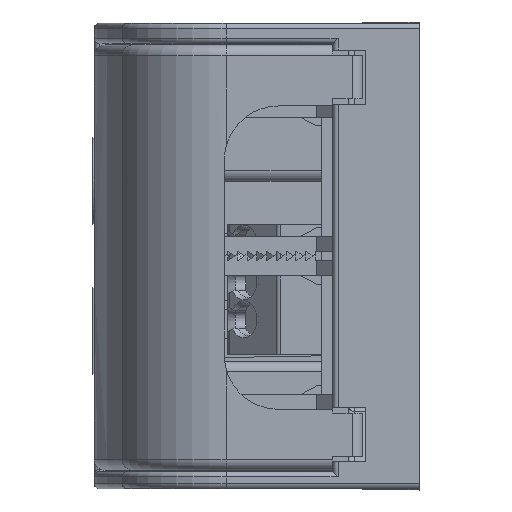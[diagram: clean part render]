
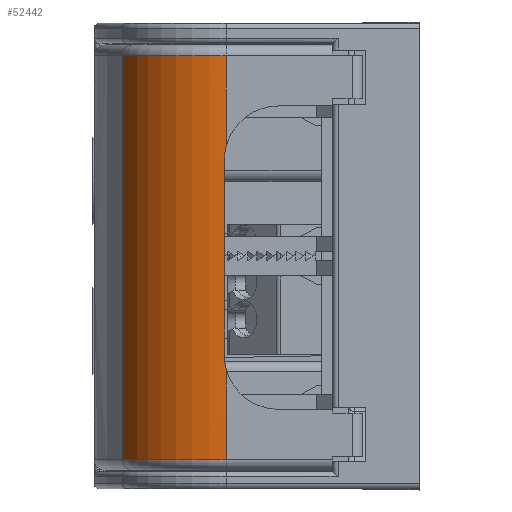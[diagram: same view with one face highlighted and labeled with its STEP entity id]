
A CAD part, left-side view. The second image highlights one B-rep face of the part: STEP entity #52442.
In plain terms, the highlighted cylindrical face has radius 10 mm (diameter 20 mm), a partial arc.
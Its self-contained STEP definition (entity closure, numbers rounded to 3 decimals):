
#48990=CARTESIAN_POINT('',(85.5,17.836,-18.48));
#49692=CARTESIAN_POINT('',(75.5,17.836,18.78));
#49693=DIRECTION('',(0.,0.,-1.));
#49694=DIRECTION('',(0.283,0.959,0.));
#49695=AXIS2_PLACEMENT_3D('',#49692,#49693,#49694);
#49707=DIRECTION('',(0.,0.,-1.));
#49708=VECTOR('',#49707,37.26);
#49709=CARTESIAN_POINT('',(78.327,27.428,18.78));
#49710=LINE('',#49709,#49708);
#49711=DIRECTION('',(0.,0.,1.));
#49712=VECTOR('',#49711,8.359);
#49713=CARTESIAN_POINT('',(85.5,17.836,-18.48));
#49714=LINE('',#49713,#49712);
#49715=CARTESIAN_POINT('',(85.5,17.836,-10.121));
#49716=CARTESIAN_POINT('',(85.5,17.872,
-9.983));
#49717=CARTESIAN_POINT('',(85.5,17.933,
-9.704));
#49718=CARTESIAN_POINT('',(85.499,17.988,
-9.278));
#49719=CARTESIAN_POINT('',(85.499,18.,
-8.993));
#49720=CARTESIAN_POINT('',(85.499,18.,
-8.85));
#49722=DIRECTION('',(0.,0.,1.));
#49723=VECTOR('',#49722,18.);
#49724=CARTESIAN_POINT('',(85.499,18.,
-8.85));
#49725=LINE('',#49724,#49723);
#49726=CARTESIAN_POINT('',(85.499,18.,9.15));
#49727=CARTESIAN_POINT('',(85.499,18.,9.293));
#49728=CARTESIAN_POINT('',(85.499,17.988,9.578));
#49729=CARTESIAN_POINT('',(85.5,17.933,10.004));
#49730=CARTESIAN_POINT('',(85.5,17.872,10.283));
#49731=CARTESIAN_POINT('',(85.5,17.836,10.421));
#49733=DIRECTION('',(0.,0.,1.));
#49734=VECTOR('',#49733,8.359);
#49735=CARTESIAN_POINT('',(85.5,17.836,10.421));
#49736=LINE('',#49735,#49734);
#49742=CARTESIAN_POINT('',(75.5,17.836,-18.48));
#49743=DIRECTION('',(0.,0.,1.));
#49744=DIRECTION('',(1.,0.,0.));
#49745=AXIS2_PLACEMENT_3D('',#49742,#49743,#49744);
#50073=CARTESIAN_POINT('',(78.327,27.428,18.78));
#50074=VERTEX_POINT('',#50073);
#50076=CARTESIAN_POINT('',(78.327,27.428,-18.48));
#50077=VERTEX_POINT('',#50076);
#50246=VERTEX_POINT('',#48990);
#50282=CARTESIAN_POINT('',(85.499,18.,9.15));
#50283=VERTEX_POINT('',#50282);
#50284=CARTESIAN_POINT('',(85.499,18.,
-8.85));
#50285=VERTEX_POINT('',#50284);
#50290=CARTESIAN_POINT('',(85.5,17.836,10.421));
#50291=VERTEX_POINT('',#50290);
#50440=CARTESIAN_POINT('',(85.5,17.836,18.78));
#50441=VERTEX_POINT('',#50440);
#50442=CARTESIAN_POINT('',(85.5,17.836,-10.121));
#50443=VERTEX_POINT('',#50442);
#52423=CARTESIAN_POINT('',(75.5,17.836,72.802));
#52424=DIRECTION('',(0.,0.,-1.));
#52425=DIRECTION('',(0.283,0.959,0.));
#52426=AXIS2_PLACEMENT_3D('',#52423,#52424,#52425);
#52427=CYLINDRICAL_SURFACE('',#52426,10.);
#52428=ORIENTED_EDGE('',*,*,#52415,.F.);
#52429=ORIENTED_EDGE('',*,*,#50716,.T.);
#52431=ORIENTED_EDGE('',*,*,#52430,.F.);
#52433=ORIENTED_EDGE('',*,*,#52432,.T.);
#52435=ORIENTED_EDGE('',*,*,#52434,.T.);
#52436=ORIENTED_EDGE('',*,*,#51607,.T.);
#52437=ORIENTED_EDGE('',*,*,#51624,.T.);
#52439=ORIENTED_EDGE('',*,*,#52438,.T.);
#52440=EDGE_LOOP('',(#52428,#52429,#52431,#52433,#52435,#52436,#52437,#52439));
#52441=FACE_OUTER_BOUND('',#52440,.F.);
#52442=ADVANCED_FACE('',(#52441),#52427,.T.);
#49696=CIRCLE('',#49695,10.);
#49721=B_SPLINE_CURVE_WITH_KNOTS('',3,(#49715,#49716,#49717,#49718,#49719,
#49720),.UNSPECIFIED.,.F.,.F.,(4,1,1,4),(0.,0.333,
0.667,1.),.UNSPECIFIED.);
#49732=B_SPLINE_CURVE_WITH_KNOTS('',3,(#49726,#49727,#49728,#49729,#49730,
#49731),.UNSPECIFIED.,.F.,.F.,(4,1,1,4),(0.,0.333,
0.667,1.),.UNSPECIFIED.);
#49746=CIRCLE('',#49745,10.);
#50716=EDGE_CURVE('',#50074,#50077,#49710,.T.);
#51607=EDGE_CURVE('',#50285,#50283,#49725,.T.);
#51624=EDGE_CURVE('',#50283,#50291,#49732,.T.);
#52415=EDGE_CURVE('',#50074,#50441,#49696,.T.);
#52430=EDGE_CURVE('',#50246,#50077,#49746,.T.);
#52432=EDGE_CURVE('',#50246,#50443,#49714,.T.);
#52434=EDGE_CURVE('',#50443,#50285,#49721,.T.);
#52438=EDGE_CURVE('',#50291,#50441,#49736,.T.);
